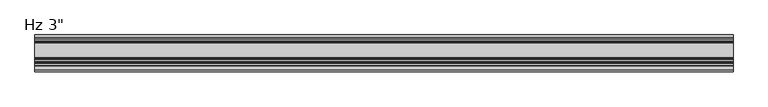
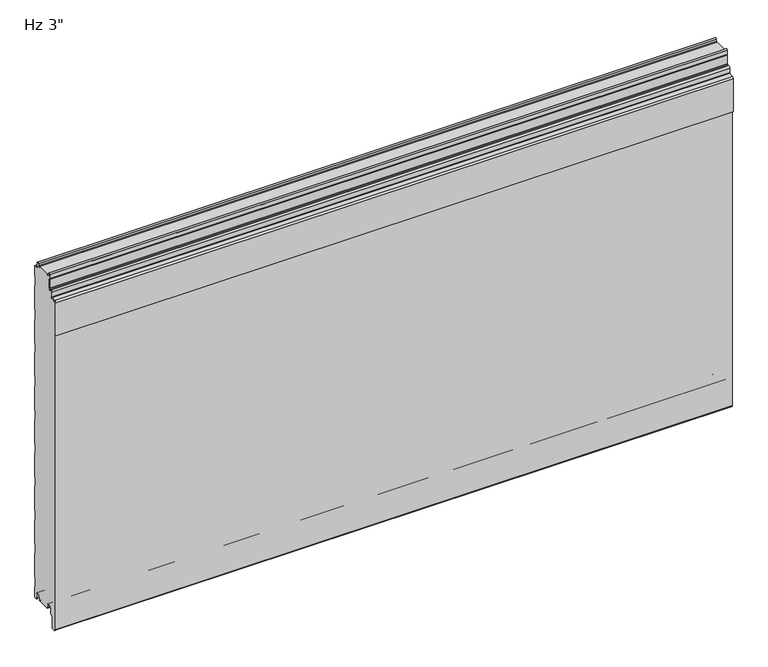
"""IFC4 building model written with IfcOpenShell, lengths in millimetres: plate geometry."""

from ifc_helpers import new_model, si_unit, frame, origin, place, context, project, spatial, polyline, circle_curve, source, transform, mapped, element, save
from ifc_brep_helpers import plane_surface, cylinder_surface, revolved_surface, advanced_brep


def plate_d2e7867d(model_context):
    return source(origin(), model_context, "Body", "AdvancedBrep", [
        advanced_brep(
        [(730.0, -55.1008679, 735.9534183), (730.0, -55.1008679, 754.6986183), (730.0, -56.6248679, 754.6986183), (730.0, -56.6248679, 735.9534183), (730.0, -58.1488679, 734.4294183), (730.0, -61.2476679, 734.4294183), (730.0, -64.7020679, 730.9750183), (730.0, -64.7020679, 719.762461), (730.0, -65.3976552, 719.0033606), (730.0, -74.9416507, 717.808533), (730.0, -77.724, 714.7721316), (730.0, -77.7360323, 639.2048183), (730.0, -76.2, 639.2048183), (730.0, -76.2, 714.7721316), (730.0, -74.8088254, 716.2903323), (730.0, -65.2648299, 717.4851599), (730.0, -63.1780679, 719.762461), (730.0, -63.1780679, 730.9750183), (730.0, -61.2476679, 732.9054183), (730.0, -58.1488679, 732.9054183), (-730.0, -55.1008679, 735.9534183), (-730.0, -58.1488679, 732.9054183), (-730.0, -61.2476679, 732.9054183), (-730.0, -63.1780679, 730.9750183), (-730.0, -63.1780679, 719.762461), (-730.0, -65.2648299, 717.4851599), (-730.0, -74.8088254, 716.2903323), (-730.0, -76.2, 714.7721316), (-730.0, -76.2, 639.2048183), (-730.0, -77.7360323, 639.2048183), (-730.0, -77.7360323, 714.7721316), (-730.0, -74.9416507, 717.808533), (-730.0, -65.3976552, 719.0033606), (-730.0, -64.7020679, 719.762461), (-730.0, -64.7020679, 730.9750183), (-730.0, -61.2476679, 734.4294183), (-730.0, -58.1488679, 734.4294183), (-730.0, -56.6248679, 735.9534183), (-730.0, -56.6248679, 754.6986183), (-730.0, -55.1008679, 754.6986183)],
        [
            (0, 1),
            (1, 2),
            (2, 3),
            (3, 4, circle_curve(frame((730.0, -58.1488679, 735.9534183), z_axis=(-1.0, 0.0, 0.0), x_axis=(0.0, 1.0, 0.0)), 1.524)),
            (4, 5),
            (5, 6, circle_curve(frame((730.0, -61.2476679, 730.9750183), z_axis=(1.0, 0.0, 0.0), x_axis=(0.0, 1.0, 0.0)), 3.4544)),
            (6, 7),
            (7, 8, circle_curve(frame((730.0, -65.4640679, 719.762461), z_axis=(-1.0, 0.0, 0.0), x_axis=(0.0, 1.0, 0.0)), 0.762)),
            (8, 9),
            (9, 10, circle_curve(frame((730.0, -74.676, 714.7721316), z_axis=(1.0, 0.0, 0.0), x_axis=(0.0, 1.0, 0.0)), 3.048)),
            (10, 11),
            (11, 12),
            (12, 13),
            (13, 14, circle_curve(frame((730.0, -74.676, 714.7721316), z_axis=(-1.0, 0.0, 0.0), x_axis=(0.0, 1.0, 0.0)), 1.524)),
            (14, 15),
            (15, 16, circle_curve(frame((730.0, -65.4640679, 719.762461), z_axis=(1.0, 0.0, 0.0), x_axis=(0.0, 1.0, 0.0)), 2.286)),
            (16, 17),
            (17, 18, circle_curve(frame((730.0, -61.2476679, 730.9750183), z_axis=(-1.0, 0.0, 0.0), x_axis=(0.0, 1.0, 0.0)), 1.9304)),
            (18, 19),
            (19, 0, circle_curve(frame((730.0, -58.1488679, 735.9534183), z_axis=(1.0, 0.0, 0.0), x_axis=(0.0, 1.0, 0.0)), 3.048)),
            (20, 21, circle_curve(frame((-730.0, -58.1488679, 735.9534183), z_axis=(-1.0, 0.0, 0.0), x_axis=(0.0, 1.0, 0.0)), 3.048)),
            (21, 22),
            (22, 23, circle_curve(frame((-730.0, -61.2476679, 730.9750183), z_axis=(1.0, 0.0, 0.0), x_axis=(0.0, 1.0, 0.0)), 1.9304)),
            (23, 24),
            (24, 25, circle_curve(frame((-730.0, -65.4640679, 719.762461), z_axis=(-1.0, 0.0, 0.0), x_axis=(0.0, 1.0, 0.0)), 2.286)),
            (25, 26),
            (26, 27, circle_curve(frame((-730.0, -74.676, 714.7721316), z_axis=(1.0, 0.0, 0.0), x_axis=(0.0, 1.0, 0.0)), 1.524)),
            (27, 28),
            (28, 29),
            (29, 30),
            (30, 31, circle_curve(frame((-730.0, -74.676, 714.7721316), z_axis=(-1.0, 0.0, 0.0), x_axis=(0.0, 1.0, 0.0)), 3.048)),
            (31, 32),
            (32, 33, circle_curve(frame((-730.0, -65.4640679, 719.762461), z_axis=(1.0, 0.0, 0.0), x_axis=(0.0, 1.0, 0.0)), 0.762)),
            (33, 34),
            (34, 35, circle_curve(frame((-730.0, -61.2476679, 730.9750183), z_axis=(-1.0, 0.0, 0.0), x_axis=(0.0, 1.0, 0.0)), 3.4544)),
            (35, 36),
            (36, 37, circle_curve(frame((-730.0, -58.1488679, 735.9534183), z_axis=(1.0, 0.0, 0.0), x_axis=(0.0, 1.0, 0.0)), 1.524)),
            (37, 38),
            (38, 39),
            (39, 20),
            (2, 38),
            (37, 3),
            (15, 25),
            (24, 16),
            (7, 33),
            (32, 8),
            (5, 35),
            (34, 6),
            (1, 39),
            (36, 4),
            (9, 31),
            (30, 10),
            (13, 27),
            (26, 14),
            (0, 20),
            (12, 28),
            (29, 11),
            (23, 17),
            (18, 22),
            (21, 19),
        ],
        [
            plane_surface(frame((730.0, -76.2, 754.6986183), z_axis=(1.0, 0.0, 0.0), x_axis=(0.0, 0.0, -1.0))),
            plane_surface(frame((-730.0, -76.2, 754.6986183), z_axis=(-1.0, 0.0, 0.0), x_axis=(0.0, 0.0, -1.0))),
            plane_surface(frame((730.0, -56.6248679, 735.9534183), z_axis=(0.0, -1.0, 0.0), x_axis=(-1.0, 0.0, 0.0))),
            cylinder_surface(frame((730.0, -65.4640679, 719.762461), z_axis=(1.0, 0.0, 0.0), x_axis=(0.0, 1.0, 0.0)), 2.286),
            revolved_surface(polyline([(-730.0, -64.7020679, 719.762461), (730.0, -64.7020679, 719.762461)]), (730.0, -65.4640679, 719.762461), (-1.0, 0.0, 0.0)),
            cylinder_surface(frame((730.0, -61.2476679, 730.9750183), z_axis=(1.0, 0.0, 0.0), x_axis=(0.0, 1.0, 0.0)), 3.4544),
            plane_surface(frame((730.0, -56.6248679, 754.6986183), z_axis=(0.0, 0.0, 1.0), x_axis=(-1.0, 0.0, 0.0))),
            revolved_surface(polyline([(-730.0, -56.6248679, 735.9534183), (730.0, -56.6248679, 735.9534183)]), (730.0, -58.1488679, 735.9534183), (-1.0, 0.0, 0.0)),
            cylinder_surface(frame((730.0, -74.676, 714.7721316), z_axis=(1.0, 0.0, 0.0), x_axis=(0.0, 1.0, 0.0)), 3.048),
            revolved_surface(polyline([(-730.0, -73.152, 714.7721316), (730.0, -73.152, 714.7721316)]), (730.0, -74.676, 714.7721316), (-1.0, 0.0, 0.0)),
            plane_surface(frame((730.0, -55.1008679, 754.6986183), z_axis=(0.0, 1.0, 0.0), x_axis=(-1.0, 0.0, 0.0))),
            plane_surface(frame((730.0, -65.2648299, 717.4851599), z_axis=(0.0, 0.12422187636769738, -0.9922544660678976), x_axis=(-1.0, 0.0, 0.0))),
            plane_surface(frame((730.0, -76.2, 714.7721316), z_axis=(0.0, 1.0, 0.0), x_axis=(-1.0, 0.0, 0.0))),
            plane_surface(frame((730.0, -74.9416507, 717.808533), z_axis=(0.0, -0.12422187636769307, 0.9922544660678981), x_axis=(-1.0, 0.0, 0.0))),
            plane_surface(frame((730.0, -61.2476679, 734.4294183), z_axis=(0.0, 0.0, 1.0), x_axis=(-1.0, 0.0, 0.0))),
            plane_surface(frame((730.0, -77.7360323, 639.2048183), z_axis=(0.0, -1.0, 0.0), x_axis=(-1.0, 0.0, 0.0))),
            plane_surface(frame((730.0, -76.2, 639.2048183), z_axis=(0.0, 0.0, -1.0), x_axis=(-1.0, 0.0, 0.0))),
            plane_surface(frame((730.0, -63.1780679, 730.9750183), z_axis=(0.0, 1.0, 0.0), x_axis=(-1.0, 0.0, 0.0))),
            plane_surface(frame((730.0, -58.1488679, 732.9054183), z_axis=(0.0, 0.0, -1.0), x_axis=(-1.0, 0.0, 0.0))),
            plane_surface(frame((730.0, -64.7020679, 719.762461), z_axis=(0.0, -1.0, 0.0), x_axis=(-1.0, 0.0, 0.0))),
            revolved_surface(polyline([(-730.0, -59.317267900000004, 730.9750183), (730.0, -59.317267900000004, 730.9750183)]), (730.0, -61.2476679, 730.9750183), (-1.0, 0.0, 0.0)),
            cylinder_surface(frame((730.0, -58.1488679, 735.9534183), z_axis=(1.0, 0.0, 0.0), x_axis=(0.0, 1.0, 0.0)), 3.048),
        ],
        [
            (0, [[1, 2, 3, 4, 5, 6, 7, 8, 9, 10, 11, 12, 13, 14, 15, 16, 17, 18, 19, 20]]),
            (1, [[21, 22, 23, 24, 25, 26, 27, 28, 29, 30, 31, 32, 33, 34, 35, 36, 37, 38, 39, 40]]),
            (2, [[41, -38, 42, -3]]),
            (3, [[43, -25, 44, -16]]),
            (4, [[45, -33, 46, -8]]),
            (5, [[47, -35, 48, -6]]),
            (6, [[49, -39, -41, -2]]),
            (7, [[-42, -37, 50, -4]]),
            (8, [[51, -31, 52, -10]]),
            (9, [[53, -27, 54, -14]]),
            (10, [[55, -40, -49, -1]]),
            (11, [[-54, -26, -43, -15]]),
            (12, [[56, -28, -53, -13]]),
            (13, [[-46, -32, -51, -9]]),
            (14, [[-50, -36, -47, -5]]),
            (15, [[-52, -30, 57, -11]]),
            (16, [[-57, -29, -56, -12]]),
            (17, [[-44, -24, 58, -17]]),
            (18, [[59, -22, 60, -19]]),
            (19, [[-48, -34, -45, -7]]),
            (20, [[-58, -23, -59, -18]]),
            (21, [[-60, -21, -55, -20]]),
        ],
    ),
        advanced_brep(
        [(-730.0, -47.870875, 1.0316999), (-730.0, -46.7014003, 2.2328239), (-730.0, -46.7014003, 5.9912173), (-730.0, -48.0998791, 5.9912173), (-730.0, -48.0998791, 8.6903283), (-730.0, -51.4498744, 12.0403236), (-730.0, -55.8498656, 12.0403236), (-730.0, -59.1998609, 8.6903283), (-730.0, -59.1998609, -3.1205608), (-730.0, -59.6977778, -4.3226385), (-730.0, -65.1998489, -9.8247096), (-730.0, -65.1998489, -31.9198392), (-730.0, -67.4184509, -34.5765709), (-730.0, -72.4002718, -35.0125699), (-730.0, -75.1945967, -32.4521176), (-730.0, -75.2, 713.515622), (-730.0, -73.4149259, 715.4669057), (-730.0, -64.9539491, 716.221161), (-730.0, -62.1906462, 719.3653654), (-730.0, -62.1906462, 729.4583308), (-730.0, -61.2392375, 730.4097394), (-730.0, -58.0955822, 730.4097394), (-730.0, -54.0961292, 734.4091924), (-730.0, -54.0961292, 755.5895515), (-730.0, -56.076977, 756.7334028), (-730.0, -55.7217167, 765.706811), (-730.0, -51.5211391, 765.7037148), (-730.0, -51.2767242, 761.6977997), (-730.0, -49.4819116, 759.9686884), (-730.0, -46.697365, 759.9686884), (-730.0, -46.697365, 760.9686884), (-730.0, -48.284865, 760.9686884), (-730.0, -47.2535534, 762.0), (-730.0, -18.6184525, 762.0), (-730.0, -17.5871409, 760.9686884), (-730.0, -19.0015288, 760.9686884), (-730.0, -19.0015288, 759.9686884), (-730.0, -16.6743462, 759.9686884), (-730.0, -14.9256429, 761.6513685), (-730.0, -14.7059822, 765.7921924), (-730.0, -10.4046442, 765.7931719), (-730.0, -9.9974365, 757.3016499), (-730.0, -6.0026007, 753.4787013), (-730.0, -1.0, 753.4787013), (-730.0, -1.0, 728.9790963), (-730.0, -2.2002307, 727.5934634), (-730.0, -2.2002307, 708.2182971), (-730.0, -1.0, 706.8326641), (-730.0, -1.0, 652.7792487), (-730.0, -2.2002307, 651.3936158), (-730.0, -2.2002307, 632.0184495), (-730.0, -1.0, 630.6328165), (-730.0, -1.0, 576.5794011), (-730.0, -2.2002307, 575.1937682), (-730.0, -2.2002307, 555.8186019), (-730.0, -1.0, 554.4329689), (-730.0, -1.0, 500.3795535), (-730.0, -2.2002307, 498.9939206), (-730.0, -2.2002307, 479.6187543), (-730.0, -1.0, 478.2331213), (-730.0, -1.0, 424.1797059), (-730.0, -2.2002307, 422.794073), (-730.0, -2.2002307, 403.4189067), (-730.0, -1.0, 402.0332737), (-730.0, -1.0, 347.9798583), (-730.0, -2.2002307, 346.5942254), (-730.0, -2.2002307, 327.2190591), (-730.0, -1.0, 325.8334261), (-730.0, -1.0, 271.7800107), (-730.0, -2.2002307, 270.3943778), (-730.0, -2.2002307, 251.0192115), (-730.0, -1.0, 249.6335785), (-730.0, -1.0, 195.5801631), (-730.0, -2.2002307, 194.1945302), (-730.0, -2.2002307, 174.8193639), (-730.0, -1.0, 173.4337309), (-730.0, -1.0, 119.3803155), (-730.0, -2.2002307, 117.9946826), (-730.0, -2.2002307, 98.6195163), (-730.0, -1.0, 97.2338833), (-730.0, -1.0, 43.1804679), (-730.0, -2.2002307, 41.794835), (-730.0, -2.2002307, 22.4196687), (-730.0, -0.9999916, 21.034026), (-730.0, -0.9999916, -3.4662506), (-730.0, -5.2315389, -3.4662506), (-730.0, -7.0015331, -1.6962564), (-730.0, -7.0015331, 8.7237222), (-730.0, -10.301529, 12.023718), (-730.0, -14.7015202, 12.023718), (-730.0, -18.0015159, 8.7237223), (-730.0, -18.0015159, 6.0315125), (-730.0, -19.0015105, 6.0315125), (-730.0, -19.0015105, 2.0313089), (-730.0, -18.0015192, 1.0313117), (-730.0, -19.0328308, 0.0), (-730.0, -46.8391751, 0.0), (730.0, -47.870875, 1.0316999), (730.0, -46.8391751, 0.0), (730.0, -19.0328308, 0.0), (730.0, -18.0015192, 1.0313117), (730.0, -19.0015105, 2.0313089), (730.0, -19.0015105, 6.0315125), (730.0, -18.0015159, 6.0315125), (730.0, -18.0015159, 8.7237223), (730.0, -14.7015202, 12.023718), (730.0, -10.301529, 12.023718), (730.0, -7.0015331, 8.7237222), (730.0, -7.0015331, -1.6962564), (730.0, -5.2315389, -3.4662506), (730.0, -0.9999916, -3.4662506), (730.0, -0.9999916, 21.034026), (730.0, -2.2002307, 22.4196687), (730.0, -2.2002307, 41.794835), (730.0, -1.0, 43.1804679), (730.0, -1.0, 97.2338833), (730.0, -2.2002307, 98.6195163), (730.0, -2.2002307, 117.9946826), (730.0, -1.0, 119.3803155), (730.0, -1.0, 173.4337309), (730.0, -2.2002307, 174.8193639), (730.0, -2.2002307, 194.1945302), (730.0, -1.0, 195.5801631), (730.0, -1.0, 249.6335785), (730.0, -2.2002307, 251.0192115), (730.0, -2.2002307, 270.3943778), (730.0, -1.0, 271.7800107), (730.0, -1.0, 325.8334261), (730.0, -2.2002307, 327.2190591), (730.0, -2.2002307, 346.5942254), (730.0, -1.0, 347.9798583), (730.0, -1.0, 402.0332737), (730.0, -2.2002307, 403.4189067), (730.0, -2.2002307, 422.794073), (730.0, -1.0, 424.1797059), (730.0, -1.0, 478.2331213), (730.0, -2.2002307, 479.6187543), (730.0, -2.2002307, 498.9939206), (730.0, -1.0, 500.3795535), (730.0, -1.0, 554.4329689), (730.0, -2.2002307, 555.8186019), (730.0, -2.2002307, 575.1937682), (730.0, -1.0, 576.5794011), (730.0, -1.0, 630.6328165), (730.0, -2.2002307, 632.0184495), (730.0, -2.2002307, 651.3936158), (730.0, -1.0, 652.7792487), (730.0, -1.0, 706.8326641), (730.0, -2.2002307, 708.2182971), (730.0, -2.2002307, 727.5934634), (730.0, -1.0, 728.9790963), (730.0, -1.0, 753.4787013), (730.0, -6.0026007, 753.4787013), (730.0, -9.9974365, 757.3016499), (730.0, -10.4046442, 765.7931719), (730.0, -14.7059822, 765.7921924), (730.0, -14.9256429, 761.6513685), (730.0, -16.6743462, 759.9686884), (730.0, -19.0015288, 759.9686884), (730.0, -19.0015288, 760.9686884), (730.0, -17.5871409, 760.9686884), (730.0, -18.6184525, 762.0), (730.0, -47.2535534, 762.0), (730.0, -48.284865, 760.9686884), (730.0, -46.697365, 760.9686884), (730.0, -46.697365, 759.9686884), (730.0, -49.4819116, 759.9686884), (730.0, -51.2767242, 761.6977997), (730.0, -51.5211391, 765.7037148), (730.0, -55.7217167, 765.706811), (730.0, -56.076977, 756.7334028), (730.0, -54.0961292, 755.5895515), (730.0, -54.0961292, 734.4091924), (730.0, -58.0955822, 730.4097394), (730.0, -61.2392375, 730.4097394), (730.0, -62.1906462, 729.4583308), (730.0, -62.1906462, 719.3653654), (730.0, -64.9539491, 716.221161), (730.0, -73.4149259, 715.4669057), (730.0, -75.2, 713.515622), (730.0, -75.2, -32.4521176), (730.0, -72.4002718, -35.0125699), (730.0, -67.4184509, -34.5765709), (730.0, -65.1998489, -31.9198392), (730.0, -65.1998489, -9.8247096), (730.0, -59.6977778, -4.3226385), (730.0, -59.1998609, -3.1205608), (730.0, -59.1998609, 8.6903283), (730.0, -55.8498656, 12.0403236), (730.0, -51.4498744, 12.0403236), (730.0, -48.0998791, 8.6903283), (730.0, -48.0998791, 5.9912173), (730.0, -46.7014003, 5.9912173), (730.0, -46.7014003, 2.2328239)],
        [
            (0, 1, circle_curve(frame((-730.0, -47.9013969, 2.2313092), z_axis=(1.0, 0.0, 0.0), x_axis=(0.0, 0.0, -1.0)), 1.1999976)),
            (1, 2),
            (2, 3),
            (3, 4),
            (4, 5, circle_curve(frame((-730.0, -51.4498744, 8.6903283), z_axis=(1.0, 0.0, 0.0), x_axis=(0.0, 0.0, -1.0)), 3.3499953)),
            (5, 6),
            (6, 7, circle_curve(frame((-730.0, -55.8498656, 8.6903283), z_axis=(1.0, 0.0, 0.0), x_axis=(0.0, 0.0, -1.0)), 3.3499953)),
            (7, 8),
            (8, 9, circle_curve(frame((-730.0, -60.8998555, -3.1205608), z_axis=(-1.0, 0.0, 0.0), x_axis=(0.0, 0.0, -1.0)), 1.6999946)),
            (9, 10),
            (10, 11),
            (11, 12, circle_curve(frame((-730.0, -67.8998415, -31.9198392), z_axis=(-1.0, 0.0, 0.0), x_axis=(0.0, 0.0, -1.0)), 2.6999926)),
            (12, 13),
            (13, 14, circle_curve(frame((-730.0, -72.6243575, -32.4521176), z_axis=(-1.0, 0.0, 0.0), x_axis=(0.0, 0.0, -1.0)), 2.5702393)),
            (14, 15),
            (15, 16, circle_curve(frame((-730.0, -73.2409784, 713.515622), z_axis=(-1.0, 0.0, 0.0), x_axis=(0.0, 0.0, -1.0)), 1.9590216)),
            (16, 17),
            (17, 18, circle_curve(frame((-730.0, -65.2180321, 719.2396267), z_axis=(1.0, 0.0, 0.0), x_axis=(0.0, 0.0, -1.0)), 3.0299959)),
            (18, 19),
            (19, 20, circle_curve(frame((-730.0, -61.2392375, 729.4583308), z_axis=(-1.0, 0.0, 0.0), x_axis=(0.0, 0.0, -1.0)), 0.9514087)),
            (20, 21),
            (21, 22, circle_curve(frame((-730.0, -58.0955822, 734.4091924), z_axis=(1.0, 0.0, 0.0), x_axis=(0.0, 0.0, -1.0)), 3.9994529)),
            (22, 23),
            (23, 24),
            (24, 25),
            (25, 26, circle_curve(frame((-730.0, -53.621488, 765.6236622), z_axis=(-1.0, 0.0, 0.0), x_axis=(0.0, 0.0, -1.0)), 2.1018739)),
            (26, 27),
            (27, 28, circle_curve(frame((-730.0, -49.4383506, 761.8099653), z_axis=(1.0, 0.0, 0.0), x_axis=(0.0, 0.0, -1.0)), 1.8417922)),
            (28, 29),
            (29, 30),
            (30, 31),
            (31, 32),
            (32, 33),
            (33, 34),
            (34, 35),
            (35, 36),
            (36, 37),
            (37, 38, circle_curve(frame((-730.0, -16.6743462, 761.7186869), z_axis=(1.0, 0.0, 0.0), x_axis=(0.0, 0.0, 1.0)), 1.7499985)),
            (38, 39),
            (39, 40, circle_curve(frame((-730.0, -12.5552871, 765.6781032), z_axis=(-1.0, 0.0, 0.0), x_axis=(0.0, 0.0, 1.0)), 2.153719)),
            (40, 41),
            (41, 42, circle_curve(frame((-730.0, -5.9867338, 757.4939817), z_axis=(1.0, 0.0, 0.0), x_axis=(0.0, 0.0, 1.0)), 4.0153117)),
            (42, 43),
            (43, 44),
            (44, 45),
            (45, 46),
            (46, 47),
            (47, 48),
            (48, 49),
            (49, 50),
            (50, 51),
            (51, 52),
            (52, 53),
            (53, 54),
            (54, 55),
            (55, 56),
            (56, 57),
            (57, 58),
            (58, 59),
            (59, 60),
            (60, 61),
            (61, 62),
            (62, 63),
            (63, 64),
            (64, 65),
            (65, 66),
            (66, 67),
            (67, 68),
            (68, 69),
            (69, 70),
            (70, 71),
            (71, 72),
            (72, 73),
            (73, 74),
            (74, 75),
            (75, 76),
            (76, 77),
            (77, 78),
            (78, 79),
            (79, 80),
            (80, 81),
            (81, 82),
            (82, 83),
            (83, 84),
            (84, 85),
            (85, 86, circle_curve(frame((-730.0, -5.2315389, -1.6962564), z_axis=(-1.0, 0.0, 0.0), x_axis=(0.0, 0.0, 1.0)), 1.7699942)),
            (86, 87),
            (87, 88, circle_curve(frame((-730.0, -10.301529, 8.7237222), z_axis=(1.0, 0.0, 0.0), x_axis=(0.0, 0.0, 1.0)), 3.2999959)),
            (88, 89),
            (89, 90, circle_curve(frame((-730.0, -14.7015202, 8.7237223), z_axis=(1.0, 0.0, 0.0), x_axis=(0.0, 0.0, 1.0)), 3.2999957)),
            (90, 91),
            (91, 92),
            (92, 93),
            (93, 94, circle_curve(frame((-730.0, -18.0015133, 2.0313089), z_axis=(1.0, 0.0, 0.0), x_axis=(0.0, 0.0, 1.0)), 0.9999972)),
            (94, 95),
            (95, 96),
            (96, 0),
            (97, 98),
            (98, 99),
            (99, 100),
            (100, 101, circle_curve(frame((730.0, -18.0015133, 2.0313089), z_axis=(-1.0, 0.0, 0.0), x_axis=(0.0, 0.0, 1.0)), 0.9999972)),
            (101, 102),
            (102, 103),
            (103, 104),
            (104, 105, circle_curve(frame((730.0, -14.7015202, 8.7237223), z_axis=(-1.0, 0.0, 0.0), x_axis=(0.0, 0.0, 1.0)), 3.2999957)),
            (105, 106),
            (106, 107, circle_curve(frame((730.0, -10.301529, 8.7237222), z_axis=(-1.0, 0.0, 0.0), x_axis=(0.0, 0.0, 1.0)), 3.2999959)),
            (107, 108),
            (108, 109, circle_curve(frame((730.0, -5.2315389, -1.6962564), z_axis=(1.0, 0.0, 0.0), x_axis=(0.0, 0.0, 1.0)), 1.7699942)),
            (109, 110),
            (110, 111),
            (111, 112),
            (112, 113),
            (113, 114),
            (114, 115),
            (115, 116),
            (116, 117),
            (117, 118),
            (118, 119),
            (119, 120),
            (120, 121),
            (121, 122),
            (122, 123),
            (123, 124),
            (124, 125),
            (125, 126),
            (126, 127),
            (127, 128),
            (128, 129),
            (129, 130),
            (130, 131),
            (131, 132),
            (132, 133),
            (133, 134),
            (134, 135),
            (135, 136),
            (136, 137),
            (137, 138),
            (138, 139),
            (139, 140),
            (140, 141),
            (141, 142),
            (142, 143),
            (143, 144),
            (144, 145),
            (145, 146),
            (146, 147),
            (147, 148),
            (148, 149),
            (149, 150),
            (150, 151),
            (151, 152),
            (152, 153, circle_curve(frame((730.0, -5.9867338, 757.4939817), z_axis=(-1.0, 0.0, 0.0), x_axis=(0.0, 0.0, 1.0)), 4.0153117)),
            (153, 154),
            (154, 155, circle_curve(frame((730.0, -12.5552871, 765.6781032), z_axis=(1.0, 0.0, 0.0), x_axis=(0.0, 0.0, 1.0)), 2.153719)),
            (155, 156),
            (156, 157, circle_curve(frame((730.0, -16.6743462, 761.7186869), z_axis=(-1.0, 0.0, 0.0), x_axis=(0.0, 0.0, 1.0)), 1.7499985)),
            (157, 158),
            (158, 159),
            (159, 160),
            (160, 161),
            (161, 162),
            (162, 163),
            (163, 164),
            (164, 165),
            (165, 166),
            (166, 167, circle_curve(frame((730.0, -49.4383506, 761.8099653), z_axis=(-1.0, 0.0, 0.0), x_axis=(0.0, 0.0, -1.0)), 1.8417922)),
            (167, 168),
            (168, 169, circle_curve(frame((730.0, -53.621488, 765.6236622), z_axis=(1.0, 0.0, 0.0), x_axis=(0.0, 0.0, -1.0)), 2.1018739)),
            (169, 170),
            (170, 171),
            (171, 172),
            (172, 173, circle_curve(frame((730.0, -58.0955822, 734.4091924), z_axis=(-1.0, 0.0, 0.0), x_axis=(0.0, 0.0, -1.0)), 3.9994529)),
            (173, 174),
            (174, 175, circle_curve(frame((730.0, -61.2392375, 729.4583308), z_axis=(1.0, 0.0, 0.0), x_axis=(0.0, 0.0, -1.0)), 0.9514087)),
            (175, 176),
            (176, 177, circle_curve(frame((730.0, -65.2180321, 719.2396267), z_axis=(-1.0, 0.0, 0.0), x_axis=(0.0, 0.0, -1.0)), 3.0299959)),
            (177, 178),
            (178, 179, circle_curve(frame((730.0, -73.2409784, 713.515622), z_axis=(1.0, 0.0, 0.0), x_axis=(0.0, 0.0, -1.0)), 1.9590216)),
            (179, 180),
            (180, 181, circle_curve(frame((730.0, -72.6243575, -32.4521176), z_axis=(1.0, 0.0, 0.0), x_axis=(0.0, 0.0, -1.0)), 2.5702393)),
            (181, 182),
            (182, 183, circle_curve(frame((730.0, -67.8998415, -31.9198392), z_axis=(1.0, 0.0, 0.0), x_axis=(0.0, 0.0, -1.0)), 2.6999926)),
            (183, 184),
            (184, 185),
            (185, 186, circle_curve(frame((730.0, -60.8998555, -3.1205608), z_axis=(1.0, 0.0, 0.0), x_axis=(0.0, 0.0, -1.0)), 1.6999946)),
            (186, 187),
            (187, 188, circle_curve(frame((730.0, -55.8498656, 8.6903283), z_axis=(-1.0, 0.0, 0.0), x_axis=(0.0, 0.0, -1.0)), 3.3499953)),
            (188, 189),
            (189, 190, circle_curve(frame((730.0, -51.4498744, 8.6903283), z_axis=(-1.0, 0.0, 0.0), x_axis=(0.0, 0.0, -1.0)), 3.3499953)),
            (190, 191),
            (191, 192),
            (192, 193),
            (193, 97, circle_curve(frame((730.0, -47.9013969, 2.2313092), z_axis=(-1.0, 0.0, 0.0), x_axis=(0.0, 0.0, -1.0)), 1.1999976)),
            (96, 98),
            (97, 0),
            (95, 99),
            (32, 162),
            (161, 33),
            (31, 163),
            (30, 164),
            (29, 165),
            (28, 166),
            (27, 167),
            (26, 168),
            (25, 169),
            (24, 170),
            (23, 171),
            (22, 172),
            (21, 173),
            (20, 174),
            (19, 175),
            (18, 176),
            (17, 177),
            (16, 178),
            (15, 179),
            (14, 180),
            (13, 181),
            (12, 182),
            (11, 183),
            (10, 184),
            (9, 185),
            (8, 186),
            (7, 187),
            (6, 188),
            (5, 189),
            (4, 190),
            (3, 191),
            (2, 192),
            (1, 193),
            (94, 100),
            (93, 101),
            (92, 102),
            (91, 103),
            (90, 104),
            (89, 105),
            (88, 106),
            (87, 107),
            (86, 108),
            (85, 109),
            (84, 110),
            (83, 111),
            (82, 112),
            (81, 113),
            (80, 114),
            (79, 115),
            (78, 116),
            (77, 117),
            (76, 118),
            (75, 119),
            (74, 120),
            (73, 121),
            (72, 122),
            (71, 123),
            (70, 124),
            (69, 125),
            (68, 126),
            (67, 127),
            (66, 128),
            (65, 129),
            (64, 130),
            (63, 131),
            (62, 132),
            (61, 133),
            (60, 134),
            (59, 135),
            (58, 136),
            (57, 137),
            (56, 138),
            (55, 139),
            (54, 140),
            (53, 141),
            (52, 142),
            (51, 143),
            (50, 144),
            (49, 145),
            (48, 146),
            (47, 147),
            (46, 148),
            (45, 149),
            (44, 150),
            (43, 151),
            (42, 152),
            (41, 153),
            (40, 154),
            (39, 155),
            (38, 156),
            (37, 157),
            (36, 158),
            (35, 159),
            (34, 160),
        ],
        [
            plane_surface(frame((-730.0, -75.2, 381.0), z_axis=(-1.0, 0.0, 0.0), x_axis=(0.0, -1.0, 0.0))),
            plane_surface(frame((730.0, -75.2, 381.0), z_axis=(1.0, 0.0, 0.0), x_axis=(0.0, -1.0, 0.0))),
            plane_surface(frame((-730.0, -47.870875, 1.0316999), z_axis=(0.0, -0.7071067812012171, -0.707106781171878), x_axis=(1.0, 0.0, 0.0))),
            plane_surface(frame((-730.0, -46.8391751, 0.0), z_axis=(0.0, 0.0, -1.0), x_axis=(1.0, 0.0, 0.0))),
            plane_surface(frame((-730.0, -45.8391751, 762.0), z_axis=(0.0, 0.0, 1.0), x_axis=(1.0, 0.0, 0.0))),
            plane_surface(frame((-730.0, -47.2535534, 762.0), z_axis=(0.0, -0.7071067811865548, 0.7071067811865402), x_axis=(1.0, 0.0, 0.0))),
            plane_surface(frame((-730.0, -48.284865, 760.9686884), z_axis=(0.0, 0.0, -1.0), x_axis=(1.0, 0.0, 0.0))),
            plane_surface(frame((-730.0, -46.697365, 760.9686884), z_axis=(0.0, -1.0, 0.0), x_axis=(1.0, 0.0, 0.0))),
            plane_surface(frame((-730.0, -46.697365, 759.9686884), z_axis=(0.0, 0.0, 1.0), x_axis=(1.0, 0.0, 0.0))),
            revolved_surface(polyline([(730.0, -49.4383506, 759.9681731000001), (-730.0, -49.4383506, 759.9681731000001)]), (-730.0, -49.4383506, 761.8099653), (1.0, 0.0, 0.0)),
            plane_surface(frame((-730.0, -51.2767242, 761.6977997), z_axis=(0.0, 0.9981438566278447, 0.06090025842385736), x_axis=(1.0, 0.0, 0.0))),
            cylinder_surface(frame((-730.0, -53.621488, 765.6236622), z_axis=(-1.0, 0.0, 0.0), x_axis=(0.0, 0.0, -1.0)), 2.1018739),
            plane_surface(frame((-730.0, -55.7217167, 765.706811), z_axis=(0.0, -0.9992172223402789, 0.03955935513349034), x_axis=(1.0, 0.0, 0.0))),
            plane_surface(frame((-730.0, -56.076977, 756.7334028), z_axis=(0.0, -0.5000682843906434, -0.865985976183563), x_axis=(1.0, 0.0, 0.0))),
            plane_surface(frame((-730.0, -54.0961292, 755.5895515), z_axis=(0.0, -1.0, 0.0), x_axis=(1.0, 0.0, 0.0))),
            revolved_surface(polyline([(730.0, -58.0955822, 730.4097395), (-730.0, -58.0955822, 730.4097395)]), (-730.0, -58.0955822, 734.4091924), (1.0, 0.0, 0.0)),
            plane_surface(frame((-730.0, -58.0955822, 730.4097394), z_axis=(0.0, 0.0, 1.0), x_axis=(1.0, 0.0, 0.0))),
            cylinder_surface(frame((-730.0, -61.2392375, 729.4583308), z_axis=(-1.0, 0.0, 0.0), x_axis=(0.0, 0.0, -1.0)), 0.9514087),
            plane_surface(frame((-730.0, -62.1906462, 729.4583308), z_axis=(0.0, -1.0, 0.0), x_axis=(1.0, 0.0, 0.0))),
            revolved_surface(polyline([(730.0, -65.2180321, 716.2096308), (-730.0, -65.2180321, 716.2096308)]), (-730.0, -65.2180321, 719.2396267), (1.0, 0.0, 0.0)),
            plane_surface(frame((-730.0, -64.9539491, 716.221161), z_axis=(0.0, -0.08879306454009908, 0.9960500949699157), x_axis=(1.0, 0.0, 0.0))),
            cylinder_surface(frame((-730.0, -73.2409784, 713.515622), z_axis=(-1.0, 0.0, 0.0), x_axis=(0.0, 0.0, -1.0)), 1.9590216),
            plane_surface(frame((-730.0, -75.2, 713.515622), z_axis=(0.0, -1.0, 0.0), x_axis=(1.0, 0.0, 0.0))),
            cylinder_surface(frame((-730.0, -72.6243575, -32.4521176), z_axis=(-1.0, 0.0, 0.0), x_axis=(0.0, 0.0, -1.0)), 2.5702393),
            plane_surface(frame((-730.0, -72.4002718, -35.0125699), z_axis=(0.0, 0.08718474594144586, -0.9961921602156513), x_axis=(1.0, 0.0, 0.0))),
            cylinder_surface(frame((-730.0, -67.8998415, -31.9198392), z_axis=(-1.0, 0.0, 0.0), x_axis=(0.0, 0.0, -1.0)), 2.6999926),
            plane_surface(frame((-730.0, -65.1998489, -31.9198392), z_axis=(0.0, 1.0, 0.0), x_axis=(1.0, 0.0, 0.0))),
            plane_surface(frame((-730.0, -65.1998489, -9.8247096), z_axis=(0.0, 0.7071067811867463, -0.7071067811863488), x_axis=(1.0, 0.0, 0.0))),
            cylinder_surface(frame((-730.0, -60.8998555, -3.1205608), z_axis=(-1.0, 0.0, 0.0), x_axis=(0.0, 0.0, -1.0)), 1.6999946),
            plane_surface(frame((-730.0, -59.1998609, -3.1205608), z_axis=(0.0, 1.0, 0.0), x_axis=(1.0, 0.0, 0.0))),
            revolved_surface(polyline([(730.0, -55.8498656, 5.340332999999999), (-730.0, -55.8498656, 5.340332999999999)]), (-730.0, -55.8498656, 8.6903283), (1.0, 0.0, 0.0)),
            plane_surface(frame((-730.0, -55.8498656, 12.0403236), z_axis=(0.0, 0.0, -1.0), x_axis=(1.0, 0.0, 0.0))),
            revolved_surface(polyline([(730.0, -51.4498744, 5.340332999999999), (-730.0, -51.4498744, 5.340332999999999)]), (-730.0, -51.4498744, 8.6903283), (1.0, 0.0, 0.0)),
            plane_surface(frame((-730.0, -48.0998791, 8.6903283), z_axis=(0.0, -1.0, 0.0), x_axis=(1.0, 0.0, 0.0))),
            plane_surface(frame((-730.0, -48.0998791, 5.9912173), z_axis=(0.0, 0.0, -1.0), x_axis=(1.0, 0.0, 0.0))),
            plane_surface(frame((-730.0, -46.7014003, 5.9912173), z_axis=(0.0, -1.0, 0.0), x_axis=(1.0, 0.0, 0.0))),
            revolved_surface(polyline([(730.0, -47.9013969, 1.0313116), (-730.0, -47.9013969, 1.0313116)]), (-730.0, -47.9013969, 2.2313092), (1.0, 0.0, 0.0)),
            plane_surface(frame((-730.0, -19.0328308, 0.0), z_axis=(0.0, 0.7071067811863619, -0.7071067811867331), x_axis=(1.0, 0.0, 0.0))),
            revolved_surface(polyline([(730.0, -18.0015133, 3.0313061), (-730.0, -18.0015133, 3.0313061)]), (-730.0, -18.0015133, 2.0313089), (1.0, 0.0, 0.0)),
            plane_surface(frame((-730.0, -19.0015105, 2.0313089), z_axis=(0.0, 1.0, 0.0), x_axis=(1.0, 0.0, 0.0))),
            plane_surface(frame((-730.0, -19.0015105, 6.0315125), z_axis=(0.0, 0.0, -1.0), x_axis=(1.0, 0.0, 0.0))),
            plane_surface(frame((-730.0, -18.0015159, 6.0315125), z_axis=(0.0, 1.0, 0.0), x_axis=(1.0, 0.0, 0.0))),
            revolved_surface(polyline([(730.0, -14.7015202, 12.023718), (-730.0, -14.7015202, 12.023718)]), (-730.0, -14.7015202, 8.7237223), (1.0, 0.0, 0.0)),
            plane_surface(frame((-730.0, -14.7015202, 12.023718), z_axis=(0.0, 0.0, -1.0), x_axis=(1.0, 0.0, 0.0))),
            revolved_surface(polyline([(730.0, -10.301529, 12.0237181), (-730.0, -10.301529, 12.0237181)]), (-730.0, -10.301529, 8.7237222), (1.0, 0.0, 0.0)),
            plane_surface(frame((-730.0, -7.0015331, 8.7237222), z_axis=(0.0, -1.0, 0.0), x_axis=(1.0, 0.0, 0.0))),
            cylinder_surface(frame((-730.0, -5.2315389, -1.6962564), z_axis=(-1.0, 0.0, 0.0), x_axis=(0.0, 0.0, 1.0)), 1.7699942),
            plane_surface(frame((-730.0, -5.2315389, -3.4662506), z_axis=(0.0, 0.0, -1.0), x_axis=(1.0, 0.0, 0.0))),
            plane_surface(frame((-730.0, -0.9999916, -3.4662506), z_axis=(0.0, 1.0, 0.0), x_axis=(1.0, 0.0, 0.0))),
            plane_surface(frame((-730.0, -0.9999916, 21.034026), z_axis=(0.0, 0.7558648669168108, 0.6547276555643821), x_axis=(1.0, 0.0, 0.0))),
            plane_surface(frame((-730.0, -2.2002307, 22.4196687), z_axis=(0.0, 1.0, 0.0), x_axis=(1.0, 0.0, 0.0))),
            plane_surface(frame((-730.0, -2.2002307, 41.794835), z_axis=(0.0, 0.7558648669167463, -0.6547276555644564), x_axis=(1.0, 0.0, 0.0))),
            plane_surface(frame((-730.0, -1.0, 43.1804679), z_axis=(0.0, 1.0, 0.0), x_axis=(1.0, 0.0, 0.0))),
            plane_surface(frame((-730.0, -1.0, 97.2338833), z_axis=(0.0, 0.7558648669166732, 0.6547276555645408), x_axis=(1.0, 0.0, 0.0))),
            plane_surface(frame((-730.0, -2.2002307, 98.6195163), z_axis=(0.0, 1.0, 0.0), x_axis=(1.0, 0.0, 0.0))),
            plane_surface(frame((-730.0, -2.2002307, 117.9946826), z_axis=(0.0, 0.7558648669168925, -0.6547276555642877), x_axis=(1.0, 0.0, 0.0))),
            plane_surface(frame((-730.0, -1.0, 119.3803155), z_axis=(0.0, 1.0, 0.0), x_axis=(1.0, 0.0, 0.0))),
            plane_surface(frame((-730.0, -1.0, 173.4337309), z_axis=(0.0, 0.7558648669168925, 0.6547276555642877), x_axis=(1.0, 0.0, 0.0))),
            plane_surface(frame((-730.0, -2.2002307, 174.8193639), z_axis=(0.0, 1.0, 0.0), x_axis=(1.0, 0.0, 0.0))),
            plane_surface(frame((-730.0, -2.2002307, 194.1945302), z_axis=(0.0, 0.7558648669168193, -0.6547276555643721), x_axis=(1.0, 0.0, 0.0))),
            plane_surface(frame((-730.0, -1.0, 195.5801631), z_axis=(0.0, 1.0, 0.0), x_axis=(1.0, 0.0, 0.0))),
            plane_surface(frame((-730.0, -1.0, 249.6335785), z_axis=(0.0, 0.7558648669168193, 0.6547276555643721), x_axis=(1.0, 0.0, 0.0))),
            plane_surface(frame((-730.0, -2.2002307, 251.0192115), z_axis=(0.0, 1.0, 0.0), x_axis=(1.0, 0.0, 0.0))),
            plane_surface(frame((-730.0, -2.2002307, 270.3943778), z_axis=(0.0, 0.7558648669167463, -0.6547276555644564), x_axis=(1.0, 0.0, 0.0))),
            plane_surface(frame((-730.0, -1.0, 271.7800107), z_axis=(0.0, 1.0, 0.0), x_axis=(1.0, 0.0, 0.0))),
            plane_surface(frame((-730.0, -1.0, 325.8334261), z_axis=(0.0, 0.7558648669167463, 0.6547276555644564), x_axis=(1.0, 0.0, 0.0))),
            plane_surface(frame((-730.0, -2.2002307, 327.2190591), z_axis=(0.0, 1.0, 0.0), x_axis=(1.0, 0.0, 0.0))),
            plane_surface(frame((-730.0, -2.2002307, 346.5942254), z_axis=(0.0, 0.7558648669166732, -0.6547276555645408), x_axis=(1.0, 0.0, 0.0))),
            plane_surface(frame((-730.0, -1.0, 347.9798583), z_axis=(0.0, 1.0, 0.0), x_axis=(1.0, 0.0, 0.0))),
            plane_surface(frame((-730.0, -1.0, 402.0332737), z_axis=(0.0, 0.7558648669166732, 0.6547276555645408), x_axis=(1.0, 0.0, 0.0))),
            plane_surface(frame((-730.0, -2.2002307, 403.4189067), z_axis=(0.0, 1.0, 0.0), x_axis=(1.0, 0.0, 0.0))),
            plane_surface(frame((-730.0, -2.2002307, 422.794073), z_axis=(0.0, 0.755864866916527, -0.6547276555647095), x_axis=(1.0, 0.0, 0.0))),
            plane_surface(frame((-730.0, -1.0, 424.1797059), z_axis=(0.0, 1.0, 0.0), x_axis=(1.0, 0.0, 0.0))),
            plane_surface(frame((-730.0, -1.0, 478.2331213), z_axis=(0.0, 0.755864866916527, 0.6547276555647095), x_axis=(1.0, 0.0, 0.0))),
            plane_surface(frame((-730.0, -2.2002307, 479.6187543), z_axis=(0.0, 1.0, 0.0), x_axis=(1.0, 0.0, 0.0))),
            plane_surface(frame((-730.0, -2.2002307, 498.9939206), z_axis=(0.0, 0.755864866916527, -0.6547276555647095), x_axis=(1.0, 0.0, 0.0))),
            plane_surface(frame((-730.0, -1.0, 500.3795535), z_axis=(0.0, 1.0, 0.0), x_axis=(1.0, 0.0, 0.0))),
            plane_surface(frame((-730.0, -1.0, 554.4329689), z_axis=(0.0, 0.755864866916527, 0.6547276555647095), x_axis=(1.0, 0.0, 0.0))),
            plane_surface(frame((-730.0, -2.2002307, 555.8186019), z_axis=(0.0, 1.0, 0.0), x_axis=(1.0, 0.0, 0.0))),
            plane_surface(frame((-730.0, -2.2002307, 575.1937682), z_axis=(0.0, 0.7558648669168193, -0.6547276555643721), x_axis=(1.0, 0.0, 0.0))),
            plane_surface(frame((-730.0, -1.0, 576.5794011), z_axis=(0.0, 1.0, 0.0), x_axis=(1.0, 0.0, 0.0))),
            plane_surface(frame((-730.0, -1.0, 630.6328165), z_axis=(0.0, 0.7558648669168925, 0.6547276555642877), x_axis=(1.0, 0.0, 0.0))),
            plane_surface(frame((-730.0, -2.2002307, 632.0184495), z_axis=(0.0, 1.0, 0.0), x_axis=(1.0, 0.0, 0.0))),
            plane_surface(frame((-730.0, -2.2002307, 651.3936158), z_axis=(0.0, 0.7558648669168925, -0.6547276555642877), x_axis=(1.0, 0.0, 0.0))),
            plane_surface(frame((-730.0, -1.0, 652.7792487), z_axis=(0.0, 1.0, 0.0), x_axis=(1.0, 0.0, 0.0))),
            plane_surface(frame((-730.0, -1.0, 706.8326641), z_axis=(0.0, 0.7558648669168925, 0.6547276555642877), x_axis=(1.0, 0.0, 0.0))),
            plane_surface(frame((-730.0, -2.2002307, 708.2182971), z_axis=(0.0, 1.0, 0.0), x_axis=(1.0, 0.0, 0.0))),
            plane_surface(frame((-730.0, -2.2002307, 727.5934634), z_axis=(0.0, 0.7558648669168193, -0.6547276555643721), x_axis=(1.0, 0.0, 0.0))),
            plane_surface(frame((-730.0, -1.0, 728.9790963), z_axis=(0.0, 1.0, 0.0), x_axis=(1.0, 0.0, 0.0))),
            plane_surface(frame((-730.0, -1.0, 753.4787013), z_axis=(0.0, 0.0, 1.0), x_axis=(1.0, 0.0, 0.0))),
            revolved_surface(polyline([(730.0, -5.9867338, 761.5092933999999), (-730.0, -5.9867338, 761.5092933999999)]), (-730.0, -5.9867338, 757.4939817), (1.0, 0.0, 0.0)),
            plane_surface(frame((-730.0, -9.9974365, 757.3016499), z_axis=(0.0, 0.9988521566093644, 0.04789957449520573), x_axis=(1.0, 0.0, 0.0))),
            cylinder_surface(frame((-730.0, -12.5552871, 765.6781032), z_axis=(-1.0, 0.0, 0.0), x_axis=(0.0, 0.0, 1.0)), 2.153719),
            plane_surface(frame((-730.0, -14.7059822, 765.7921924), z_axis=(0.0, -0.9985959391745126, 0.05297310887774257), x_axis=(1.0, 0.0, 0.0))),
            revolved_surface(polyline([(730.0, -16.6743462, 763.4686853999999), (-730.0, -16.6743462, 763.4686853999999)]), (-730.0, -16.6743462, 761.7186869), (1.0, 0.0, 0.0)),
            plane_surface(frame((-730.0, -16.6743462, 759.9686884), z_axis=(0.0, 0.0, 1.0), x_axis=(1.0, 0.0, 0.0))),
            plane_surface(frame((-730.0, -19.0015288, 759.9686884), z_axis=(0.0, 1.0, 0.0), x_axis=(1.0, 0.0, 0.0))),
            plane_surface(frame((-730.0, -19.0015288, 760.9686884), z_axis=(0.0, 0.0, -1.0), x_axis=(1.0, 0.0, 0.0))),
            plane_surface(frame((-730.0, -17.5871409, 760.9686884), z_axis=(0.0, 0.7071067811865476, 0.7071067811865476), x_axis=(1.0, 0.0, 0.0))),
        ],
        [
            (0, [[1, 2, 3, 4, 5, 6, 7, 8, 9, 10, 11, 12, 13, 14, 15, 16, 17, 18, 19, 20, 21, 22, 23, 24, 25, 26, 27, 28, 29, 30, 31, 32, 33, 34, 35, 36, 37, 38, 39, 40, 41, 42, 43, 44, 45, 46, 47, 48, 49, 50, 51, 52, 53, 54, 55, 56, 57, 58, 59, 60, 61, 62, 63, 64, 65, 66, 67, 68, 69, 70, 71, 72, 73, 74, 75, 76, 77, 78, 79, 80, 81, 82, 83, 84, 85, 86, 87, 88, 89, 90, 91, 92, 93, 94, 95, 96, 97]]),
            (1, [[98, 99, 100, 101, 102, 103, 104, 105, 106, 107, 108, 109, 110, 111, 112, 113, 114, 115, 116, 117, 118, 119, 120, 121, 122, 123, 124, 125, 126, 127, 128, 129, 130, 131, 132, 133, 134, 135, 136, 137, 138, 139, 140, 141, 142, 143, 144, 145, 146, 147, 148, 149, 150, 151, 152, 153, 154, 155, 156, 157, 158, 159, 160, 161, 162, 163, 164, 165, 166, 167, 168, 169, 170, 171, 172, 173, 174, 175, 176, 177, 178, 179, 180, 181, 182, 183, 184, 185, 186, 187, 188, 189, 190, 191, 192, 193, 194]]),
            (2, [[195, -98, 196, -97]]),
            (3, [[197, -99, -195, -96]]),
            (4, [[198, -162, 199, -33]]),
            (5, [[200, -163, -198, -32]]),
            (6, [[201, -164, -200, -31]]),
            (7, [[202, -165, -201, -30]]),
            (8, [[203, -166, -202, -29]]),
            (9, [[204, -167, -203, -28]]),
            (10, [[205, -168, -204, -27]]),
            (11, [[206, -169, -205, -26]]),
            (12, [[207, -170, -206, -25]]),
            (13, [[208, -171, -207, -24]]),
            (14, [[209, -172, -208, -23]]),
            (15, [[210, -173, -209, -22]]),
            (16, [[211, -174, -210, -21]]),
            (17, [[212, -175, -211, -20]]),
            (18, [[213, -176, -212, -19]]),
            (19, [[214, -177, -213, -18]]),
            (20, [[215, -178, -214, -17]]),
            (21, [[216, -179, -215, -16]]),
            (22, [[217, -180, -216, -15]]),
            (23, [[218, -181, -217, -14]]),
            (24, [[219, -182, -218, -13]]),
            (25, [[220, -183, -219, -12]]),
            (26, [[221, -184, -220, -11]]),
            (27, [[222, -185, -221, -10]]),
            (28, [[223, -186, -222, -9]]),
            (29, [[224, -187, -223, -8]]),
            (30, [[225, -188, -224, -7]]),
            (31, [[226, -189, -225, -6]]),
            (32, [[227, -190, -226, -5]]),
            (33, [[228, -191, -227, -4]]),
            (34, [[229, -192, -228, -3]]),
            (35, [[230, -193, -229, -2]]),
            (36, [[-196, -194, -230, -1]]),
            (37, [[231, -100, -197, -95]]),
            (38, [[232, -101, -231, -94]]),
            (39, [[233, -102, -232, -93]]),
            (40, [[234, -103, -233, -92]]),
            (41, [[235, -104, -234, -91]]),
            (42, [[236, -105, -235, -90]]),
            (43, [[237, -106, -236, -89]]),
            (44, [[238, -107, -237, -88]]),
            (45, [[239, -108, -238, -87]]),
            (46, [[240, -109, -239, -86]]),
            (47, [[241, -110, -240, -85]]),
            (48, [[242, -111, -241, -84]]),
            (49, [[243, -112, -242, -83]]),
            (50, [[244, -113, -243, -82]]),
            (51, [[245, -114, -244, -81]]),
            (52, [[246, -115, -245, -80]]),
            (53, [[247, -116, -246, -79]]),
            (54, [[248, -117, -247, -78]]),
            (55, [[249, -118, -248, -77]]),
            (56, [[250, -119, -249, -76]]),
            (57, [[251, -120, -250, -75]]),
            (58, [[252, -121, -251, -74]]),
            (59, [[253, -122, -252, -73]]),
            (60, [[254, -123, -253, -72]]),
            (61, [[255, -124, -254, -71]]),
            (62, [[256, -125, -255, -70]]),
            (63, [[257, -126, -256, -69]]),
            (64, [[258, -127, -257, -68]]),
            (65, [[259, -128, -258, -67]]),
            (66, [[260, -129, -259, -66]]),
            (67, [[261, -130, -260, -65]]),
            (68, [[262, -131, -261, -64]]),
            (69, [[263, -132, -262, -63]]),
            (70, [[264, -133, -263, -62]]),
            (71, [[265, -134, -264, -61]]),
            (72, [[266, -135, -265, -60]]),
            (73, [[267, -136, -266, -59]]),
            (74, [[268, -137, -267, -58]]),
            (75, [[269, -138, -268, -57]]),
            (76, [[270, -139, -269, -56]]),
            (77, [[271, -140, -270, -55]]),
            (78, [[272, -141, -271, -54]]),
            (79, [[273, -142, -272, -53]]),
            (80, [[274, -143, -273, -52]]),
            (81, [[275, -144, -274, -51]]),
            (82, [[276, -145, -275, -50]]),
            (83, [[277, -146, -276, -49]]),
            (84, [[278, -147, -277, -48]]),
            (85, [[279, -148, -278, -47]]),
            (86, [[280, -149, -279, -46]]),
            (87, [[281, -150, -280, -45]]),
            (88, [[282, -151, -281, -44]]),
            (89, [[283, -152, -282, -43]]),
            (90, [[284, -153, -283, -42]]),
            (91, [[285, -154, -284, -41]]),
            (92, [[286, -155, -285, -40]]),
            (93, [[287, -156, -286, -39]]),
            (94, [[288, -157, -287, -38]]),
            (95, [[289, -158, -288, -37]]),
            (96, [[290, -159, -289, -36]]),
            (97, [[291, -160, -290, -35]]),
            (98, [[-199, -161, -291, -34]]),
        ],
    ),
    ])


if __name__ == "__main__":
    model = new_model("IFC4")
    model_context = context("Model", 3, world=origin())
    ifc_project = project(units=[si_unit("LENGTHUNIT", "METRE", prefix="MILLI")], contexts=[model_context])
    site = spatial("IfcSite", under=ifc_project)
    building = spatial("IfcBuilding", under=site)
    placement = place(None, origin())
    plate_shape = plate_d2e7867d(model_context)
    element("IfcPlate", 1, ObjectType="KIP-30-Karrier-KP-R19-CP-Hz-FL3-8in_SL : Hz 3\"", at=placement, inside=building, context=model_context, shape_type="MappedRepresentation", body=[
        mapped(plate_shape, transform((0.0, 0.0, 0.0), x_axis=(1.0, 0.0, 0.0), y_axis=(0.0, 1.0, 0.0), z_axis=(0.0, 0.0, 1.0))),
    ])
    save(model, "model.ifc")
